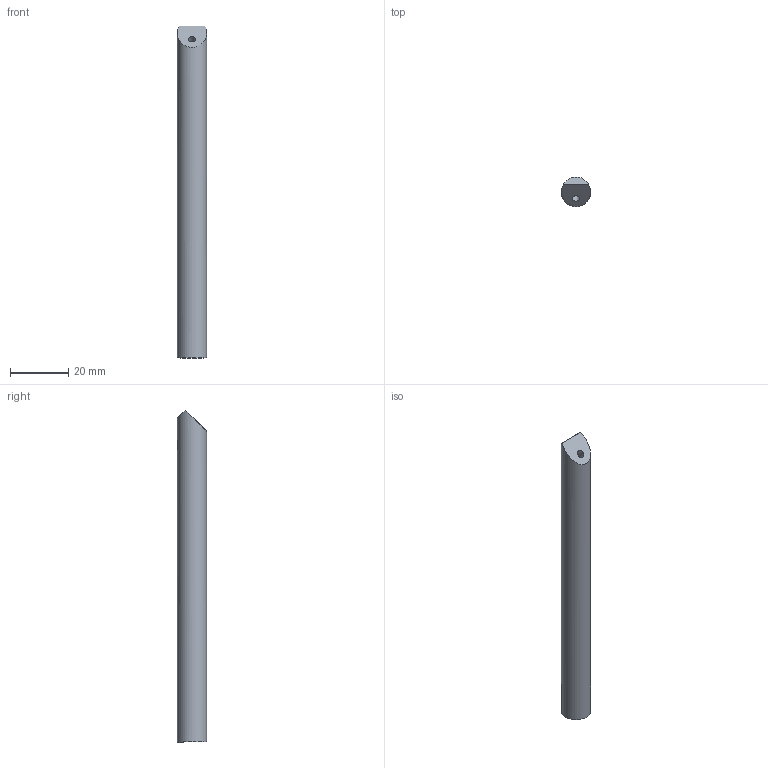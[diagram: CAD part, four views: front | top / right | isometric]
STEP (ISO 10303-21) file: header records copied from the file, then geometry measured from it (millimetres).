
FILE_DESCRIPTION(/* description */ (''),/* implementation_level */ '2;1');
FILE_NAME(/* name */ 'C:/Users/anton/Documents/Kerbal Space Program/Kerbal_Control_Panel/KCP2/CAD/ForManufacture/LongColumn_v90.step',/* time_stamp */ '2020-11-13T21:34:02-08:00',/* author */ (''),/* organization */ (''),/* preprocessor_version */ 'ST-DEVELOPER v18.1',/* originating_system */ 'Autodesk Translation Framework v9.3.0.1241',/* authorisation */ '');
FILE_SCHEMA (('AUTOMOTIVE_DESIGN { 1 0 10303 214 3 1 1 }'));
Length unit declared in the file: millimetre
Products named in the file (1): Long Column
Bounding box: 10 x 10 x 113.69 mm (x, y, z)
Volume: 8557.4 mm3; surface area: 3879.2 mm2
Topology: 1 solids, 1 shells, 7 faces, 14 edges, 9 vertices
Faces by surface type: plane 3, cylinder 3, cone 1
Full cylindrical faces by diameter (mm): 2.529 x2, 10 x1
Entity records: 261 total; most frequent: CARTESIAN_POINT 67, DIRECTION 35, ORIENTED_EDGE 26, AXIS2_PLACEMENT_3D 15, EDGE_CURVE 13, EDGE_LOOP 10, VERTEX_POINT 9, FACE_OUTER_BOUND 7
